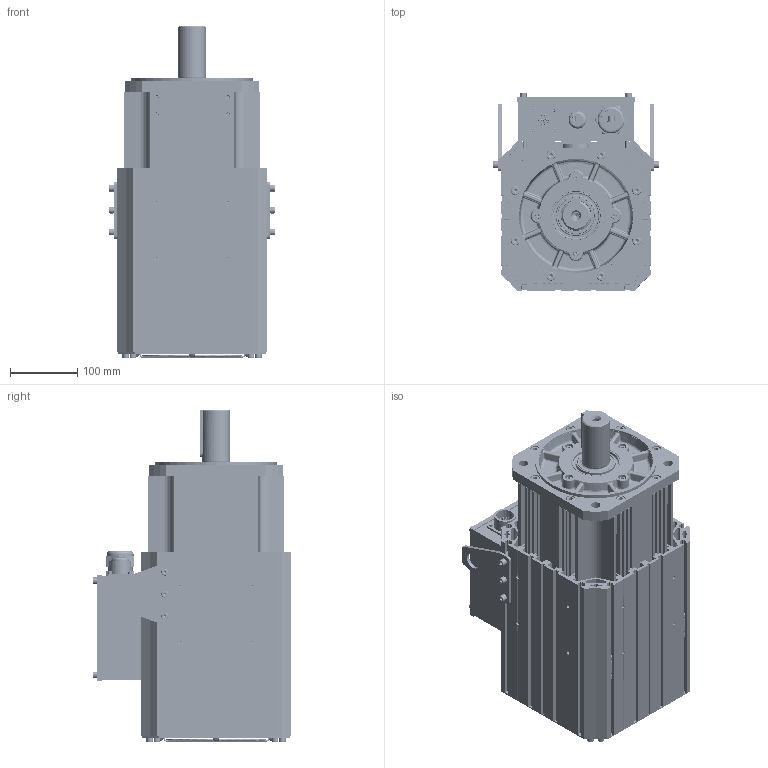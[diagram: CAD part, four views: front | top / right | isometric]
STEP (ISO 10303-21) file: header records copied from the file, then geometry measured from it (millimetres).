
FILE_DESCRIPTION (( 'STEP AP214' ), '1' );
FILE_NAME ('VM7-M20D-01515-D1FN.STEP', '2022-04-02T02:01:06', ( '' ), ( '' ), 'SwSTEP 2.0', 'SolidWorks 2014', '' );
FILE_SCHEMA (( 'AUTOMOTIVE_DESIGN' ));
Length unit declared in the file: millimetre
Products named in the file (3): 俋褲ㄗVM7-M20Dㄘ; 翋极ㄗVM7-M20Dㄘ; VM7-M20D-01515-D1FN
Assembly tree (2 placements, depth 2):
  VM7-M20D-01515-D1FN
    翋极ㄗVM7-M20Dㄘ
    俋褲ㄗVM7-M20Dㄘ
Bounding box: 246.2 x 294.7 x 493 mm (x, y, z)
Volume: 2134379.2 mm3; surface area: 2233169.1 mm2
Topology: 45 solids, 183 shells, 5660 faces, 14472 edges, 9117 vertices
Faces by surface type: plane 3221, cylinder 1323, cone 587, bspline 529
Entity records: 187119 total; most frequent: CARTESIAN_POINT 50233, ORIENTED_EDGE 28442, DIRECTION 27688, EDGE_CURVE 14230, AXIS2_PLACEMENT_3D 9527, VERTEX_POINT 9117, VECTOR 8634, LINE 8634
